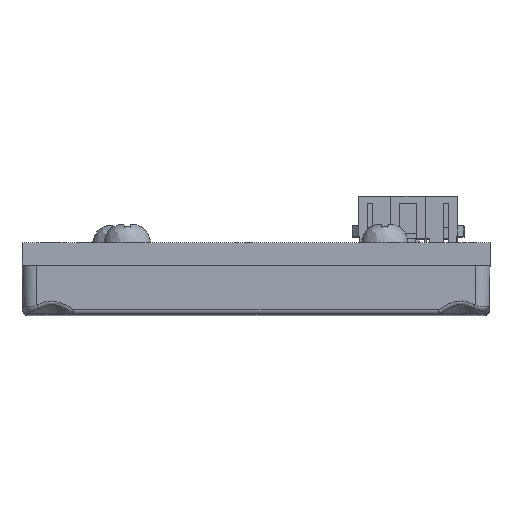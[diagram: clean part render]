
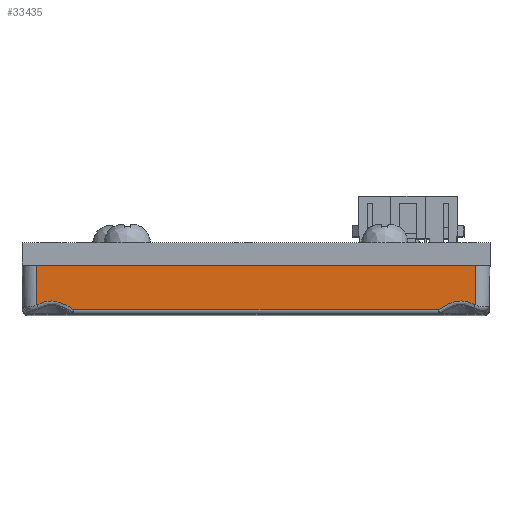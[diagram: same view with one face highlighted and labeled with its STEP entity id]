
A CAD part, top view. The second image highlights one B-rep face of the part: STEP entity #33435.
In plain terms, the highlighted planar face has unit normal (0, -0.018, 1).
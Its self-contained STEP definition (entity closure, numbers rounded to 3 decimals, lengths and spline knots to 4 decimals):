
#58=CARTESIAN_POINT('',(-0.937,-0.1707,
1.497));
#60=DIRECTION('',(0.017,1.,0.017));
#61=VECTOR('',#60,0.1708);
#62=CARTESIAN_POINT('',(0.937,-0.1707,1.497));
#63=LINE('',#62,#61);
#64=CARTESIAN_POINT('',(0.7781,-0.1917,1.4967));
#65=CARTESIAN_POINT('',(0.7818,-0.1892,1.4967));
#66=CARTESIAN_POINT('',(0.7889,-0.1845,1.4968));
#67=CARTESIAN_POINT('',(0.7983,-0.1788,1.4969));
#68=CARTESIAN_POINT('',(0.8067,-0.174,1.497));
#69=CARTESIAN_POINT('',(0.8142,-0.17,1.497));
#70=CARTESIAN_POINT('',(0.8212,-0.1667,1.4971));
#71=CARTESIAN_POINT('',(0.8276,-0.1639,1.4971));
#72=CARTESIAN_POINT('',(0.8336,-0.1616,1.4972));
#73=CARTESIAN_POINT('',(0.8392,-0.1596,1.4972));
#74=CARTESIAN_POINT('',(0.8445,-0.158,1.4972));
#75=CARTESIAN_POINT('',(0.8496,-0.1567,1.4973));
#76=CARTESIAN_POINT('',(0.8545,-0.1556,1.4973));
#77=CARTESIAN_POINT('',(0.8593,-0.1548,1.4973));
#78=CARTESIAN_POINT('',(0.864,-0.1542,1.4973));
#79=CARTESIAN_POINT('',(0.8685,-0.1539,1.4973));
#80=CARTESIAN_POINT('',(0.8731,-0.1537,1.4973));
#81=CARTESIAN_POINT('',(0.8776,-0.1537,1.4973));
#82=CARTESIAN_POINT('',(0.8822,-0.1539,1.4973));
#83=CARTESIAN_POINT('',(0.8868,-0.1543,1.4973));
#84=CARTESIAN_POINT('',(0.8914,-0.1549,1.4973));
#85=CARTESIAN_POINT('',(0.8962,-0.1558,1.4973));
#86=CARTESIAN_POINT('',(0.9012,-0.1569,1.4973));
#87=CARTESIAN_POINT('',(0.9063,-0.1582,1.4972));
#88=CARTESIAN_POINT('',(0.9117,-0.1599,1.4972));
#89=CARTESIAN_POINT('',(0.9173,-0.1619,1.4972));
#90=CARTESIAN_POINT('',(0.9234,-0.1643,1.4971));
#91=CARTESIAN_POINT('',(0.9298,-0.1672,1.4971));
#92=CARTESIAN_POINT('',(0.9346,-0.1695,1.497));
#93=CARTESIAN_POINT('',(0.937,-0.1707,1.497));
#95=DIRECTION('',(1.,0.,0.));
#96=VECTOR('',#95,1.5562);
#97=CARTESIAN_POINT('',(-0.7781,-0.1917,
1.4967));
#98=LINE('',#97,#96);
#99=CARTESIAN_POINT('',(-0.937,-0.1707,
1.497));
#100=CARTESIAN_POINT('',(-0.9346,-0.1695,
1.497));
#101=CARTESIAN_POINT('',(-0.9298,-0.1672,
1.4971));
#102=CARTESIAN_POINT('',(-0.9234,-0.1643,
1.4971));
#103=CARTESIAN_POINT('',(-0.9173,-0.1619,
1.4972));
#104=CARTESIAN_POINT('',(-0.9117,-0.1599,
1.4972));
#105=CARTESIAN_POINT('',(-0.9063,-0.1582,
1.4972));
#106=CARTESIAN_POINT('',(-0.9012,-0.1569,
1.4973));
#107=CARTESIAN_POINT('',(-0.8962,-0.1558,
1.4973));
#108=CARTESIAN_POINT('',(-0.8914,-0.1549,
1.4973));
#109=CARTESIAN_POINT('',(-0.8868,-0.1543,
1.4973));
#110=CARTESIAN_POINT('',(-0.8822,-0.1539,
1.4973));
#111=CARTESIAN_POINT('',(-0.8776,-0.1537,
1.4973));
#112=CARTESIAN_POINT('',(-0.8731,-0.1537,
1.4973));
#113=CARTESIAN_POINT('',(-0.8685,-0.1539,
1.4973));
#114=CARTESIAN_POINT('',(-0.864,-0.1542,
1.4973));
#115=CARTESIAN_POINT('',(-0.8593,-0.1548,
1.4973));
#116=CARTESIAN_POINT('',(-0.8545,-0.1556,
1.4973));
#117=CARTESIAN_POINT('',(-0.8496,-0.1567,
1.4973));
#118=CARTESIAN_POINT('',(-0.8445,-0.158,
1.4972));
#119=CARTESIAN_POINT('',(-0.8392,-0.1596,
1.4972));
#120=CARTESIAN_POINT('',(-0.8336,-0.1616,
1.4972));
#121=CARTESIAN_POINT('',(-0.8276,-0.1639,
1.4971));
#122=CARTESIAN_POINT('',(-0.8212,-0.1667,
1.4971));
#123=CARTESIAN_POINT('',(-0.8143,-0.17,
1.497));
#124=CARTESIAN_POINT('',(-0.8067,-0.174,
1.497));
#125=CARTESIAN_POINT('',(-0.7983,-0.1788,
1.4969));
#126=CARTESIAN_POINT('',(-0.7889,-0.1845,
1.4968));
#127=CARTESIAN_POINT('',(-0.7818,-0.1892,
1.4967));
#128=CARTESIAN_POINT('',(-0.7781,-0.1917,
1.4967));
#130=DIRECTION('',(-0.017,1.,0.017));
#131=VECTOR('',#130,0.1708);
#132=CARTESIAN_POINT('',(-0.937,-0.1707,
1.497));
#133=LINE('',#132,#131);
#134=DIRECTION('',(1.,0.,0.));
#135=VECTOR('',#134,1.88);
#136=CARTESIAN_POINT('',(-0.94,0.,1.5));
#137=LINE('',#136,#135);
#32142=VERTEX_POINT('',#58);
#32144=VERTEX_POINT('',#128);
#32147=CARTESIAN_POINT('',(0.7781,-0.1917,
1.4967));
#32148=VERTEX_POINT('',#32147);
#32152=VERTEX_POINT('',#93);
#32748=CARTESIAN_POINT('',(-0.94,0.,1.5));
#32749=CARTESIAN_POINT('',(0.94,0.,1.5));
#32750=VERTEX_POINT('',#32748);
#32751=VERTEX_POINT('',#32749);
#33417=CARTESIAN_POINT('',(2.0476,0.,1.5));
#33418=DIRECTION('',(0.,-0.017,1.));
#33419=DIRECTION('',(1.,0.,0.));
#33420=AXIS2_PLACEMENT_3D('',#33417,#33418,#33419);
#33421=PLANE('',#33420);
#33423=ORIENTED_EDGE('',*,*,#33422,.T.);
#33425=ORIENTED_EDGE('',*,*,#33424,.F.);
#33427=ORIENTED_EDGE('',*,*,#33426,.F.);
#33429=ORIENTED_EDGE('',*,*,#33428,.F.);
#33431=ORIENTED_EDGE('',*,*,#33430,.F.);
#33432=ORIENTED_EDGE('',*,*,#33408,.T.);
#33433=EDGE_LOOP('',(#33423,#33425,#33427,#33429,#33431,#33432));
#33434=FACE_OUTER_BOUND('',#33433,.F.);
#33435=ADVANCED_FACE('',(#33434),#33421,.T.);
#94=B_SPLINE_CURVE_WITH_KNOTS('',3,(#64,#65,#66,#67,#68,#69,#70,#71,#72,#73,#74,
#75,#76,#77,#78,#79,#80,#81,#82,#83,#84,#85,#86,#87,#88,#89,#90,#91,#92,#93),
.UNSPECIFIED.,.F.,.F.,(4,1,1,1,1,1,1,1,1,1,1,1,1,1,1,1,1,1,1,1,1,1,1,1,1,1,1,4),
(0.,0.037,0.0741,0.1111,0.1481,
0.1852,0.2222,0.2593,0.2963,
0.3333,0.3704,0.4074,0.4444,
0.4815,0.5185,0.5556,0.5926,
0.6296,0.6667,0.7037,0.7407,
0.7778,0.8148,0.8519,0.8889,
0.9259,0.963,1.),.UNSPECIFIED.);
#129=B_SPLINE_CURVE_WITH_KNOTS('',3,(#99,#100,#101,#102,#103,#104,#105,#106,
#107,#108,#109,#110,#111,#112,#113,#114,#115,#116,#117,#118,#119,#120,#121,#122,
#123,#124,#125,#126,#127,#128),.UNSPECIFIED.,.F.,.F.,(4,1,1,1,1,1,1,1,1,1,1,1,1,
1,1,1,1,1,1,1,1,1,1,1,1,1,1,4),(0.,0.037,0.0741,
0.1111,0.1481,0.1852,0.2222,
0.2593,0.2963,0.3333,0.3704,
0.4074,0.4444,0.4815,0.5185,
0.5556,0.5926,0.6296,0.6667,
0.7037,0.7407,0.7778,0.8148,
0.8519,0.8889,0.9259,0.963,1.),
.UNSPECIFIED.);
#33408=EDGE_CURVE('',#32142,#32750,#133,.T.);
#33422=EDGE_CURVE('',#32750,#32751,#137,.T.);
#33424=EDGE_CURVE('',#32152,#32751,#63,.T.);
#33426=EDGE_CURVE('',#32148,#32152,#94,.T.);
#33428=EDGE_CURVE('',#32144,#32148,#98,.T.);
#33430=EDGE_CURVE('',#32142,#32144,#129,.T.);
